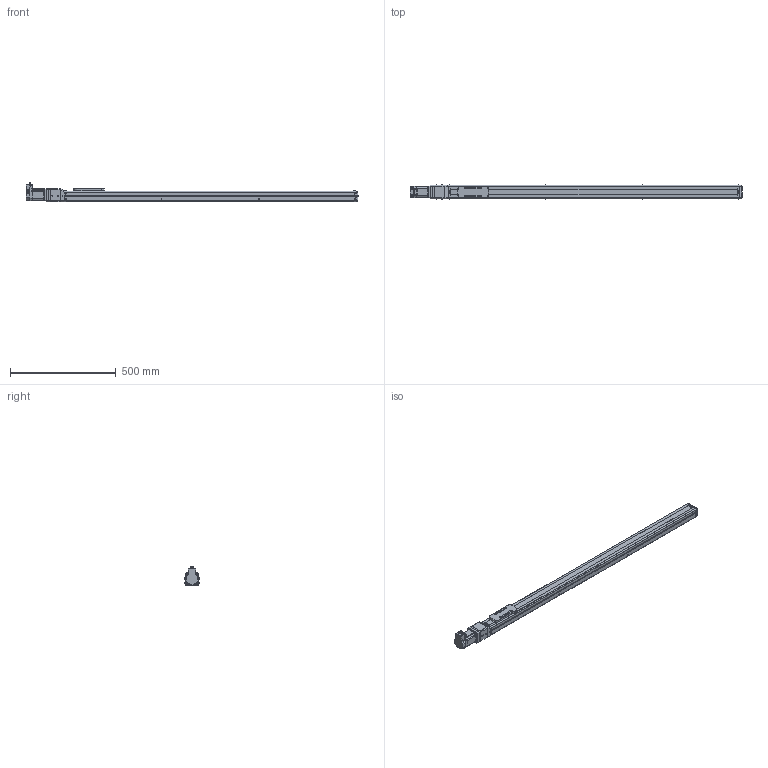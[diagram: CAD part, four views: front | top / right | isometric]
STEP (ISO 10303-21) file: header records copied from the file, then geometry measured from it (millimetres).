
FILE_DESCRIPTION(('FreeCAD Model'),'2;1');
FILE_NAME('Open CASCADE Shape Model','2023-08-02T11:19:36',('Author'),( ''),'Open CASCADE STEP processor 7.5','FreeCAD','Unknown');
FILE_SCHEMA(('AUTOMOTIVE_DESIGN { 1 0 10303 214 1 1 1 1 }'));
Length unit declared in the file: millimetre
Products named in the file (19): RSA1211; 1; 6; 5; 12; 2; 3; 9; 4; 11; 7; 13; 10; 8; Shapes; KSF6-20-1150-0-A0(0); KSF6---(Cover); KSF6-10-0050---(slider); KSF6-20-01150-A0 (01150A0No0)---(body)
Assembly tree (18 placements, depth 3):
  RSA1211
    1
    6
    5
    12
    2
    3
    9
    4
    11
    7
    13
    10
    8
    Shapes
    KSF6-20-1150-0-A0(0)
      KSF6---(Cover)
      KSF6-10-0050---(slider)
      KSF6-20-01150-A0 (01150A0No0)---(body)
Bounding box: 1573 x 66.4 x 93.17 mm (x, y, z)
Volume: 4912671.8 mm3; surface area: 497172.1 mm2
Topology: 17 solids, 17 shells, 1603 faces, 4266 edges, 2802 vertices
Faces by surface type: plane 1147, cylinder 318, cone 75, bspline 32, torus 27, revolution 4
Full cylindrical faces by diameter (mm): 2.113 x8, 2.6 x4, 3 x2, 3.242 x5, 4.134 x4, 4.5 x2, 5 x1, 5.5 x20, 6.5 x4, 9 x1, 9.5 x14, 12 x1, 15.5 x1, 17 x1, 44 x1, 50 x1
Entity records: 112560 total; most frequent: CARTESIAN_POINT 26492, DIRECTION 16015, LINE 10840, VECTOR 10840, ORIENTED_EDGE 8492, PCURVE 8492, DEFINITIONAL_REPRESENTATION 8492, EDGE_CURVE 4246
